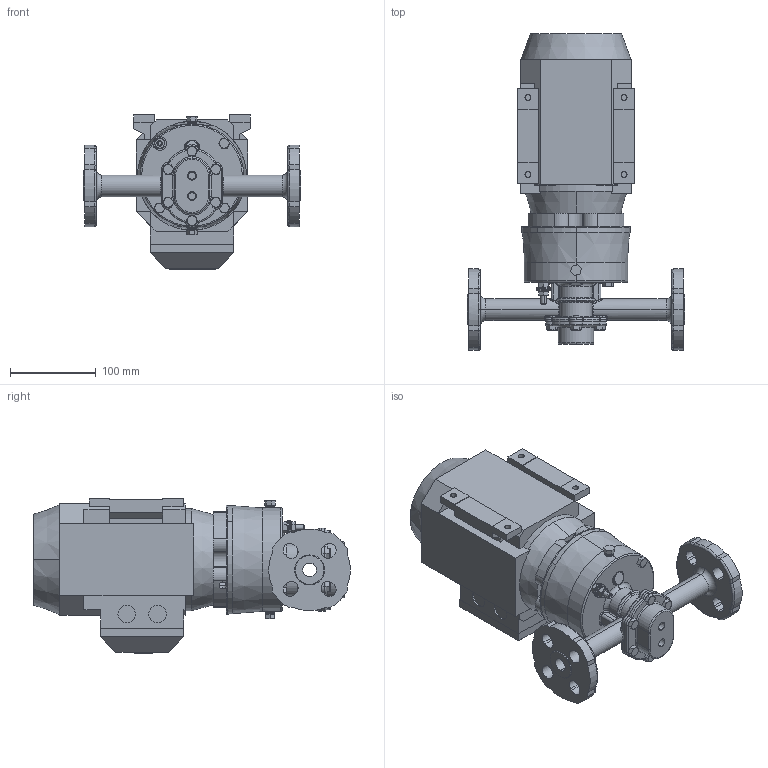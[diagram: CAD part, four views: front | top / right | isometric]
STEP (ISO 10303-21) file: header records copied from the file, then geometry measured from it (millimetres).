
FILE_DESCRIPTION (( 'STEP AP214' ), '1' );
FILE_NAME ('E05M FLNG 71F.STEP', '2025-03-05T19:36:33', ( '' ), ( '' ), 'SwSTEP 2.0', 'SolidWorks 2021', '' );
FILE_SCHEMA (( 'AUTOMOTIVE_DESIGN' ));
Length unit declared in the file: inch
Products named in the file (1): E05M FLNG 71F
Bounding box: 253.88 x 369.2 x 180 mm (x, y, z)
Volume: 4224601.9 mm3; surface area: 385552.6 mm2
Topology: 23 solids, 23 shells, 1335 faces, 3540 edges, 2288 vertices
Faces by surface type: cylinder 510, plane 456, cone 200, torus 113, bspline 44, sphere 12
Entity records: 68739 total; most frequent: CARTESIAN_POINT 17978, ORIENTED_EDGE 7028, DIRECTION 6834, EDGE_CURVE 3514, AXIS2_PLACEMENT_3D 2646, VERTEX_POINT 2288, VECTOR 1542, LINE 1542
